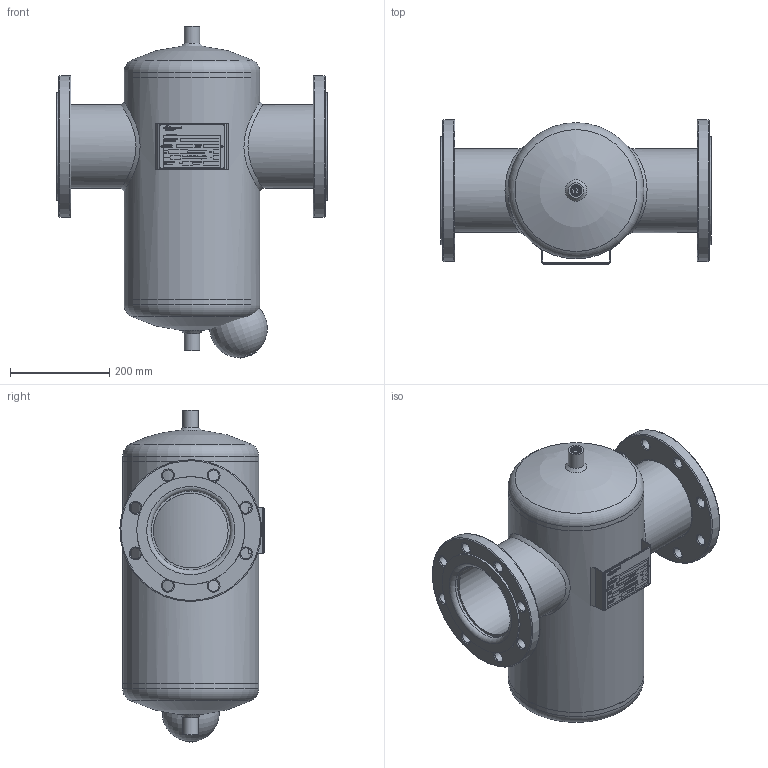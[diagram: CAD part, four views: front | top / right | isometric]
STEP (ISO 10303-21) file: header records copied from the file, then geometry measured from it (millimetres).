
FILE_DESCRIPTION(/* description */ ('Unknown'),/* implementation_level */ '2;1');
FILE_NAME(/* name */ 'DFL150',/* time_stamp */ '2020-01-28T15:38:08+01:00',/* author */ ('Unknown'),/* organization */ ('Unknown'),/* preprocessor_version */ 'ST-DEVELOPER v16.7',/* originating_system */ 'DEX',/* authorisation */ $);
FILE_SCHEMA (('AUTOMOTIVE_DESIGN {1 0 10303 214 3 1 1}'));
Length unit declared in the file: millimetre
Products named in the file (1): DFL150
Bounding box: 544 x 289.86 x 667.52 mm (x, y, z)
Volume: 33993132.6 mm3; surface area: 1238882.6 mm2
Topology: 2 solids, 3 shells, 3113 faces, 7775 edges, 5153 vertices
Faces by surface type: plane 2158, bspline 802, cylinder 81, torus 51, cone 19, sphere 2
Full cylindrical faces by diameter (mm): 3.8 x2, 4.917 x1, 9.231 x1, 19 x1, 22 x16, 31.17 x2, 34.1 x1, 37 x1, 40 x1, 40.2 x1, 48 x1, 49 x1, 52 x1, 62 x1, 65 x1, 150.3 x2, 159.3 x2, 168.3 x2, 170.5 x2, 217 x2, 273 x1, 273.2 x2, 285 x2
Entity records: 159989 total; most frequent: CARTESIAN_POINT 73574, ORIENTED_EDGE 15086, DIRECTION 9026, EDGE_CURVE 7543, VERTEX_POINT 5107, LINE 3844, VECTOR 3844, FACE_BOUND 3820
